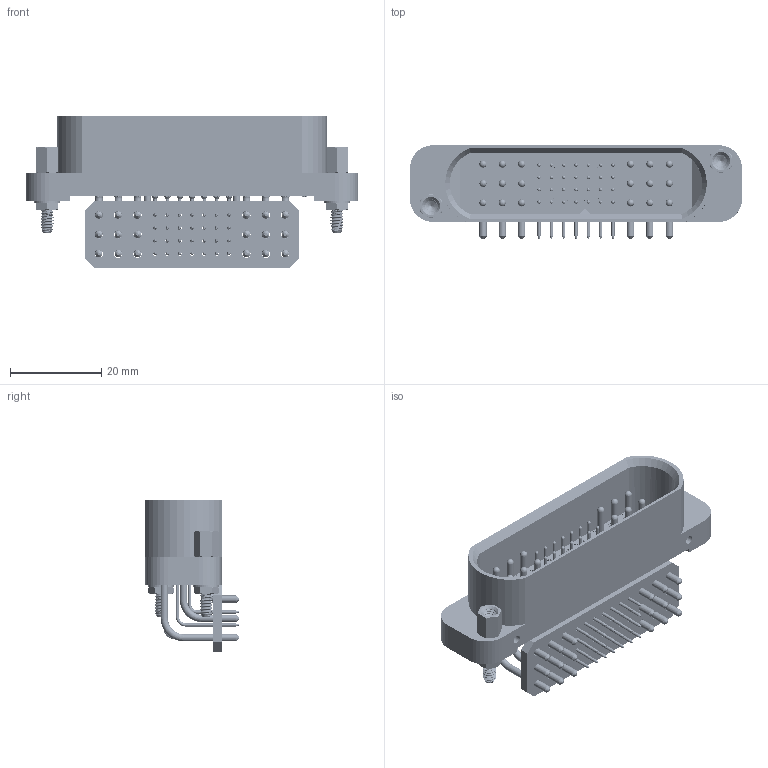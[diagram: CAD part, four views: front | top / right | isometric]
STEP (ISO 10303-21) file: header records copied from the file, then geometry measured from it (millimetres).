
FILE_DESCRIPTION (( 'STEP AP203' ), '1' );
FILE_NAME ('GFSH928M4T   .STEP', '2024-12-21T05:58:22', ( '' ), ( '' ), 'SwSTEP 2.0', 'SolidWorks 2021', '' );
FILE_SCHEMA (( 'CONFIG_CONTROL_DESIGN' ));
Products named in the file (1): GFSH928M4T   
Bounding box: 72.86 x 20.49 x 33.14 mm (x, y, z)
Volume: 11114.5 mm3; surface area: 14102 mm2
Topology: 2 solids, 2 shells, 4715 faces, 12563 edges, 8145 vertices
Faces by surface type: plane 2404, cylinder 877, bspline 809, cone 375, torus 158, sphere 92
Entity records: 195964 total; most frequent: CARTESIAN_POINT 82400, ORIENTED_EDGE 24930, DIRECTION 21486, EDGE_CURVE 12465, VERTEX_POINT 8143, VECTOR 7204, LINE 7204, AXIS2_PLACEMENT_3D 7141
